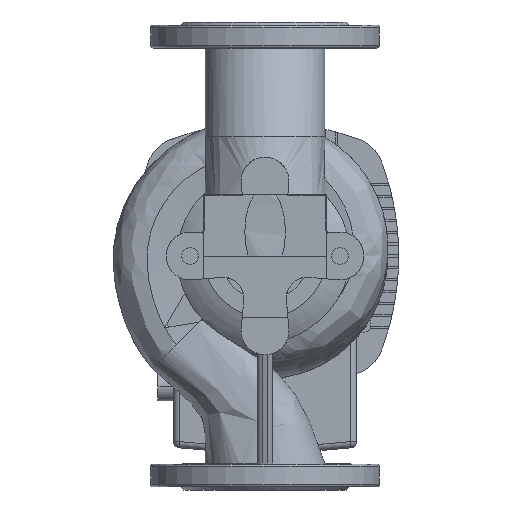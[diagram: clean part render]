
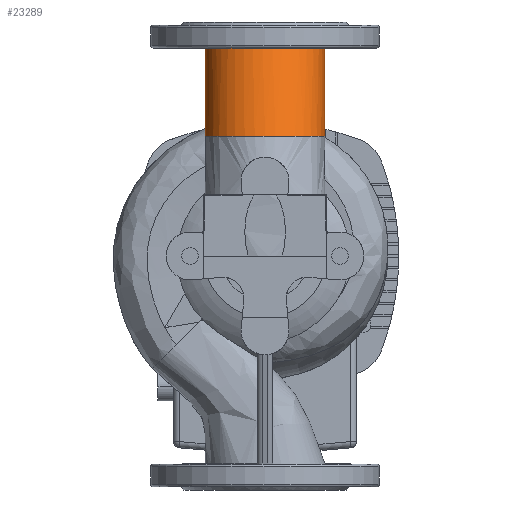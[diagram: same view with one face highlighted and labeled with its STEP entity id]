
A CAD part, front view. The second image highlights one B-rep face of the part: STEP entity #23289.
In plain terms, the highlighted free-form (B-spline) face has degree [3, 1] with [7, 2] control points.
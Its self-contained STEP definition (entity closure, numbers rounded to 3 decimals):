
#757 = ORIENTED_EDGE ( 'NONE', *, *, #17558, .F. ) ;
#1318 = VERTEX_POINT ( 'NONE', #11163 ) ;
#1660 = EDGE_CURVE ( 'NONE', #3523, #4050, #17829, .T. ) ;
#1702 = CARTESIAN_POINT ( 'NONE',  ( 57.5, 0., 200. ) ) ;
#2116 = CARTESIAN_POINT ( 'NONE',  ( -57.5, -115., 200. ) ) ;
#2709 = B_SPLINE_CURVE_WITH_KNOTS ( 'NONE', 1,
 ( #12371, #16590 ),
 .UNSPECIFIED., .F., .F.,
 ( 2, 2 ),
 ( 0., 1. ),
 .UNSPECIFIED. ) ;
#3523 = VERTEX_POINT ( 'NONE', #1702 ) ;
#3558 = CARTESIAN_POINT ( 'NONE',  ( 57.5, -115., 200. ) ) ;
#3702 = EDGE_CURVE ( 'NONE', #1318, #4050, #14486, .T. ) ;
#4050 = VERTEX_POINT ( 'NONE', #7586 ) ;
#5583 = ORIENTED_EDGE ( 'NONE', *, *, #14767, .T. ) ;
#6164 = CARTESIAN_POINT ( 'NONE',  ( -57.5, -154.575, 115.131 ) ) ;
#6320 = CARTESIAN_POINT ( 'NONE',  ( -57.5, 75.425, 115.131 ) ) ;
#7586 = CARTESIAN_POINT ( 'NONE',  ( -57.5, 0., 200. ) ) ;
#8056 = CARTESIAN_POINT ( 'NONE',  ( -57.5, 115., 200. ) ) ;
#9993 = CIRCLE ( 'NONE', #22523, 57.5 ) ;
#10106 = CARTESIAN_POINT ( 'NONE',  ( 57.5, 75.425, 115.131 ) ) ;
#10235 = CARTESIAN_POINT ( 'NONE',  ( -57.5, -115., 200. ) ) ;
#10539 = CARTESIAN_POINT ( 'NONE',  ( -57.5, -39.575, 115.131 ) ) ;
#10630 = CARTESIAN_POINT ( 'NONE',  ( 57.5, -39.575, 115.131 ) ) ;
#11163 = CARTESIAN_POINT ( 'NONE',  ( -57.5, -39.575, 115.131 ) ) ;
#11607 = EDGE_LOOP ( 'NONE', ( #757, #5583, #23068, #27583 ) ) ;
#12302 = CARTESIAN_POINT ( 'NONE',  ( 0., -39.575, 115.131 ) ) ;
#12371 = CARTESIAN_POINT ( 'NONE',  ( 57.5, -39.575, 115.131 ) ) ;
#12859 = CARTESIAN_POINT ( 'NONE',  ( 57.5, 115., 200. ) ) ;
#14486 = B_SPLINE_CURVE_WITH_KNOTS ( 'NONE', 1,
 ( #18124, #24957 ),
 .UNSPECIFIED., .F., .F.,
 ( 2, 2 ),
 ( 0., 1. ),
 .UNSPECIFIED. ) ;
#14605 = CARTESIAN_POINT ( 'NONE',  ( 57.5, -39.575, 115.131 ) ) ;
#14745 = CARTESIAN_POINT ( 'NONE',  ( 57.5, 0., 200. ) ) ;
#14767 = EDGE_CURVE ( 'NONE', #28721, #3523, #2709, .T. ) ;
#16590 = CARTESIAN_POINT ( 'NONE',  ( 57.5, 0., 200. ) ) ;
#17080 = FACE_OUTER_BOUND ( 'NONE', #11607, .T. ) ;
#17368 = CARTESIAN_POINT ( 'NONE',  ( -57.5, 0., 200. ) ) ;
#17558 = EDGE_CURVE ( 'NONE', #28721, #1318, #9993, .T. ) ;
#17829 =( BOUNDED_CURVE ( )  B_SPLINE_CURVE ( 3, ( #18106, #26684, #2116, #20430 ),
 .UNSPECIFIED., .F., .F. ) 
 B_SPLINE_CURVE_WITH_KNOTS ( ( 4, 4 ),
 ( 0.082, 0.262 ),
 .UNSPECIFIED. ) 
 CURVE ( )  GEOMETRIC_REPRESENTATION_ITEM ( )  RATIONAL_B_SPLINE_CURVE ( ( 1., 0.333, 0.333, 1. ) ) 
 REPRESENTATION_ITEM ( '' )  );
#18106 = CARTESIAN_POINT ( 'NONE',  ( 57.5, 0., 200. ) ) ;
#18124 = CARTESIAN_POINT ( 'NONE',  ( -57.5, -39.575, 115.131 ) ) ;
#19108 = CARTESIAN_POINT ( 'NONE',  ( -57.5, -39.575, 115.131 ) ) ;
#19397 = CARTESIAN_POINT ( 'NONE',  ( 57.5, -154.575, 115.131 ) ) ;
#20430 = CARTESIAN_POINT ( 'NONE',  ( -57.5, 0., 200. ) ) ;
#22523 = AXIS2_PLACEMENT_3D ( 'NONE', #12302, #25935, #23615 ) ;
#23068 = ORIENTED_EDGE ( 'NONE', *, *, #1660, .T. ) ;
#23289 = ADVANCED_FACE ( 'NONE', ( #17080 ), #28426, .F. ) ;
#23608 = CARTESIAN_POINT ( 'NONE',  ( -57.5, 0., 200. ) ) ;
#23615 = DIRECTION ( 'NONE',  ( -1., 0., 0. ) ) ;
#24957 = CARTESIAN_POINT ( 'NONE',  ( -57.5, 0., 200. ) ) ;
#25935 = DIRECTION ( 'NONE',  ( 0., 0., -1. ) ) ;
#26684 = CARTESIAN_POINT ( 'NONE',  ( 57.5, -115., 200. ) ) ;
#27583 = ORIENTED_EDGE ( 'NONE', *, *, #3702, .F. ) ;
#28426 =( BOUNDED_SURFACE ( )  B_SPLINE_SURFACE ( 3, 1, ( 
 ( #10539, #17368 ),
 ( #6320, #8056 ),
 ( #10106, #12859 ),
 ( #14605, #14745 ),
 ( #19397, #3558 ),
 ( #6164, #10235 ),
 ( #19108, #23608 ) ),
 .UNSPECIFIED., .T., .F., .T. ) 
 B_SPLINE_SURFACE_WITH_KNOTS ( ( 4, 3, 4 ),
 ( 2, 2 ),
 ( 0., 0.5, 1. ),
 ( 0., 1. ),
 .UNSPECIFIED. ) 
 GEOMETRIC_REPRESENTATION_ITEM ( )  RATIONAL_B_SPLINE_SURFACE ( (
 ( 1., 1.),
 ( 0.333, 0.333),
 ( 0.333, 0.333),
 ( 1., 1.),
 ( 0.333, 0.333),
 ( 0.333, 0.333),
 ( 1., 1.) ) ) 
 REPRESENTATION_ITEM ( '' )  SURFACE ( )  );
#28721 = VERTEX_POINT ( 'NONE', #10630 ) ;
